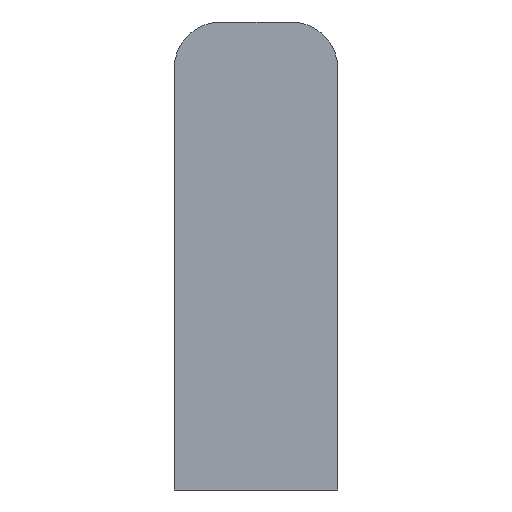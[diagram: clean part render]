
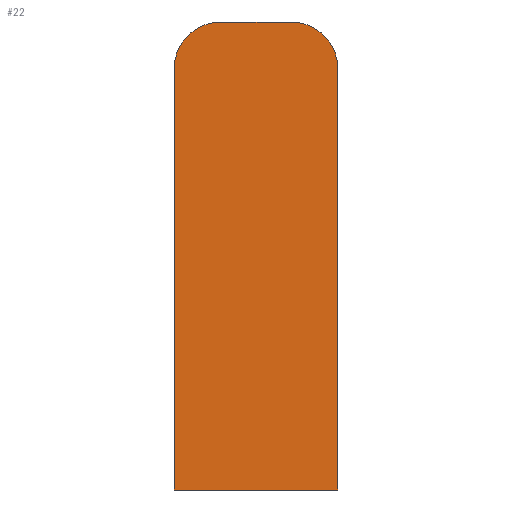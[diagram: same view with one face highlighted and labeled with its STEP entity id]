
A CAD part, front view. The second image highlights one B-rep face of the part: STEP entity #22.
In plain terms, the highlighted planar face has unit normal (0, -1, 0).
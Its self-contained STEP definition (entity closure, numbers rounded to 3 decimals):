
#2 = VERTEX_POINT ( 'NONE', #221 ) ;
#4 = VERTEX_POINT ( 'NONE', #126 ) ;
#7 = VERTEX_POINT ( 'NONE', #11 ) ;
#11 = CARTESIAN_POINT ( 'NONE',  ( 2.25, 0., 13.5 ) ) ;
#12 = VERTEX_POINT ( 'NONE', #130 ) ;
#22 = ADVANCED_FACE ( 'NONE', ( #52 ), #148, .F. ) ;
#30 = ORIENTED_EDGE ( 'NONE', *, *, #243, .T. ) ;
#31 = ORIENTED_EDGE ( 'NONE', *, *, #259, .T. ) ;
#42 = ORIENTED_EDGE ( 'NONE', *, *, #228, .T. ) ;
#52 = FACE_OUTER_BOUND ( 'NONE', #68, .T. ) ;
#55 = ORIENTED_EDGE ( 'NONE', *, *, #265, .T. ) ;
#57 = ORIENTED_EDGE ( 'NONE', *, *, #249, .T. ) ;
#58 = LINE ( 'NONE', #191, #106 ) ;
#59 = ORIENTED_EDGE ( 'NONE', *, *, #239, .T. ) ;
#68 = EDGE_LOOP ( 'NONE', ( #55, #30, #31, #59, #57, #42 ) ) ;
#73 = VECTOR ( 'NONE', #188, 1000. ) ;
#74 = CIRCLE ( 'NONE', #254, 3. ) ;
#80 = LINE ( 'NONE', #187, #73 ) ;
#85 = LINE ( 'NONE', #156, #87 ) ;
#87 = VECTOR ( 'NONE', #161, 1000. ) ;
#88 = CIRCLE ( 'NONE', #269, 3. ) ;
#106 = VECTOR ( 'NONE', #216, 1000. ) ;
#111 = LINE ( 'NONE', #196, #112 ) ;
#112 = VECTOR ( 'NONE', #197, 1000. ) ;
#122 = VERTEX_POINT ( 'NONE', #155 ) ;
#125 = VERTEX_POINT ( 'NONE', #160 ) ;
#126 = CARTESIAN_POINT ( 'NONE',  ( 5.25, 0., 10.5 ) ) ;
#130 = CARTESIAN_POINT ( 'NONE',  ( -5.25, 0., -16.5 ) ) ;
#148 = PLANE ( 'NONE',  #256 ) ;
#151 = CARTESIAN_POINT ( 'NONE',  ( 0., 0., -1.5 ) ) ;
#155 = CARTESIAN_POINT ( 'NONE',  ( 5.25, 0., -16.5 ) ) ;
#156 = CARTESIAN_POINT ( 'NONE',  ( 5.25, 0., -16.5 ) ) ;
#157 = DIRECTION ( 'NONE',  ( 0., 1., 0. ) ) ;
#158 = DIRECTION ( 'NONE',  ( -1., 0., 0. ) ) ;
#160 = CARTESIAN_POINT ( 'NONE',  ( -2.25, 0., 13.5 ) ) ;
#161 = DIRECTION ( 'NONE',  ( 1., 0., 0. ) ) ;
#171 = CARTESIAN_POINT ( 'NONE',  ( -2.25, 0., 10.5 ) ) ;
#172 = CARTESIAN_POINT ( 'NONE',  ( 2.25, 0., 10.5 ) ) ;
#173 = DIRECTION ( 'NONE',  ( 0., -1., 0. ) ) ;
#174 = DIRECTION ( 'NONE',  ( -1., 0., 0. ) ) ;
#175 = DIRECTION ( 'NONE',  ( 0., -1., 0. ) ) ;
#176 = DIRECTION ( 'NONE',  ( -1., 0., 0. ) ) ;
#187 = CARTESIAN_POINT ( 'NONE',  ( -5.25, 0., -16.5 ) ) ;
#188 = DIRECTION ( 'NONE',  ( 0., 0., -1. ) ) ;
#191 = CARTESIAN_POINT ( 'NONE',  ( 5.25, 0., -16.5 ) ) ;
#196 = CARTESIAN_POINT ( 'NONE',  ( 2.25, 0., 13.5 ) ) ;
#197 = DIRECTION ( 'NONE',  ( -1., 0., 0. ) ) ;
#216 = DIRECTION ( 'NONE',  ( 0., 0., 1. ) ) ;
#221 = CARTESIAN_POINT ( 'NONE',  ( -5.25, 0., 10.5 ) ) ;
#228 = EDGE_CURVE ( 'NONE', #12, #122, #85, .T. ) ;
#239 = EDGE_CURVE ( 'NONE', #125, #2, #74, .T. ) ;
#243 = EDGE_CURVE ( 'NONE', #4, #7, #88, .T. ) ;
#249 = EDGE_CURVE ( 'NONE', #2, #12, #80, .T. ) ;
#254 = AXIS2_PLACEMENT_3D ( 'NONE', #171, #173, #174 ) ;
#256 = AXIS2_PLACEMENT_3D ( 'NONE', #151, #157, #158 ) ;
#259 = EDGE_CURVE ( 'NONE', #7, #125, #111, .T. ) ;
#265 = EDGE_CURVE ( 'NONE', #122, #4, #58, .T. ) ;
#269 = AXIS2_PLACEMENT_3D ( 'NONE', #172, #175, #176 ) ;
